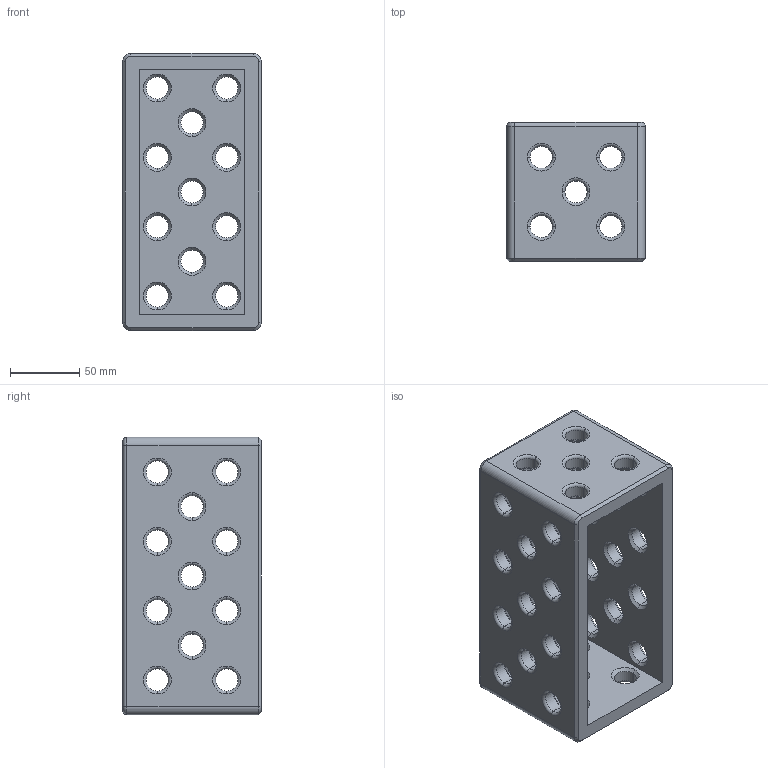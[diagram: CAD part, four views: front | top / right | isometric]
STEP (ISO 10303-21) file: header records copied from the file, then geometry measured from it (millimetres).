
FILE_DESCRIPTION (( 'STEP AP203' ), '1' );
FILE_NAME ('160396.1_100x200x100.step', '2014-08-11T15:31:50', ( 'User' ), ( '' ), 'SwSTEP 2.0', 'SolidWorks 2014', '' );
FILE_SCHEMA (( 'CONFIG_CONTROL_DESIGN' ));
Length unit declared in the file: millimetre
Products named in the file (1): 160396.1_100x200x100
Bounding box: 100 x 100 x 200 mm (x, y, z)
Volume: 706058.9 mm3; surface area: 146293.5 mm2
Topology: 1 solids, 1 shells, 289 faces, 670 edges, 384 vertices
Faces by surface type: cylinder 94, torus 90, cone 90, plane 15
Entity records: 8483 total; most frequent: DIRECTION 1704, CARTESIAN_POINT 1344, ORIENTED_EDGE 1340, AXIS2_PLACEMENT_3D 744, EDGE_CURVE 670, CIRCLE 454, VERTEX_POINT 384, EDGE_LOOP 376
